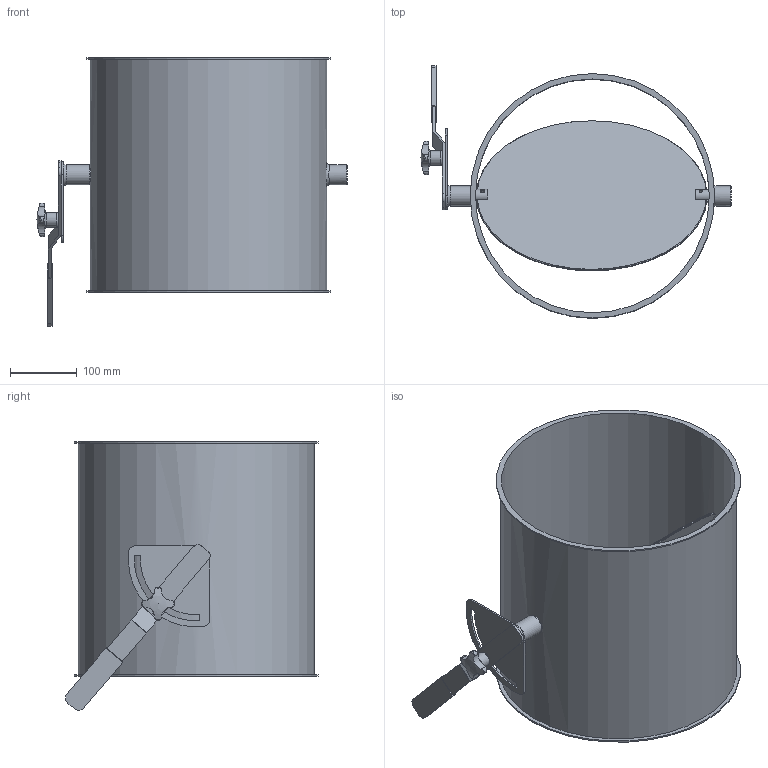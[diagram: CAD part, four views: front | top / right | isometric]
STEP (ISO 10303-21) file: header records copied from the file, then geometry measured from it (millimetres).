
FILE_DESCRIPTION((''),'2;1');
FILE_NAME('U:\Wolfgang\Marcel-3D\fertig\Kapitel 8\3521075.stp','2012-01-13T11:22:24',('iwienholt'),(''),'Autodesk Inventor 2010','Autodesk Inventor 2010','');
FILE_SCHEMA(('AUTOMOTIVE_DESIGN { 1 0 10303 214 1 1 1 1 }'));
Length unit declared in the file: millimetre
Products named in the file (7): 3521075; Bolzen D20; ganter_din_6335-ku-50-m10-k; Griff D20; Scheibe350; Umstellsegment D20; 3521075-1
Assembly tree (6 placements, depth 2):
  3521075
    Bolzen D20
    ganter_din_6335-ku-50-m10-k
    Griff D20
    Scheibe350
    Umstellsegment D20
    3521075-1
Bounding box: 463 x 377.75 x 401.07 mm (x, y, z)
Volume: 1239945.7 mm3; surface area: 1061820.2 mm2
Topology: 6 solids, 6 shells, 119 faces, 304 edges, 206 vertices
Faces by surface type: plane 51, cylinder 46, torus 9, bspline 7, cone 5, sphere 1
Full cylindrical faces by diameter (mm): 6 x4, 8 x1, 9 x1, 10 x2, 16 x1, 20 x6, 22 x1, 30 x3, 345 x1, 349 x1, 353 x1, 365 x2
Entity records: 4467 total; most frequent: CARTESIAN_POINT 1602, DIRECTION 566, ORIENTED_EDGE 492, EDGE_CURVE 246, AXIS2_PLACEMENT_3D 240, EDGE_LOOP 188, VERTEX_POINT 186, FACE_OUTER_BOUND 119
